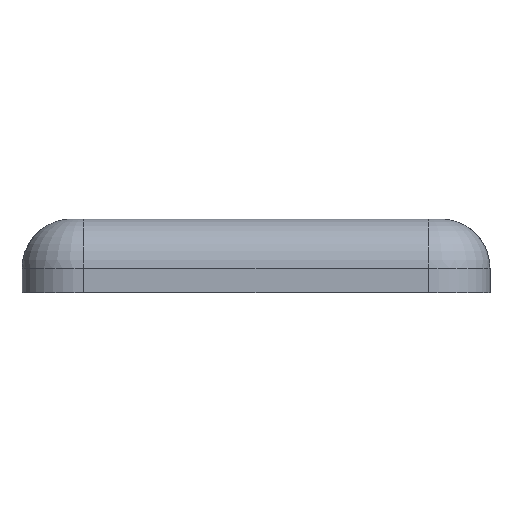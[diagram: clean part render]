
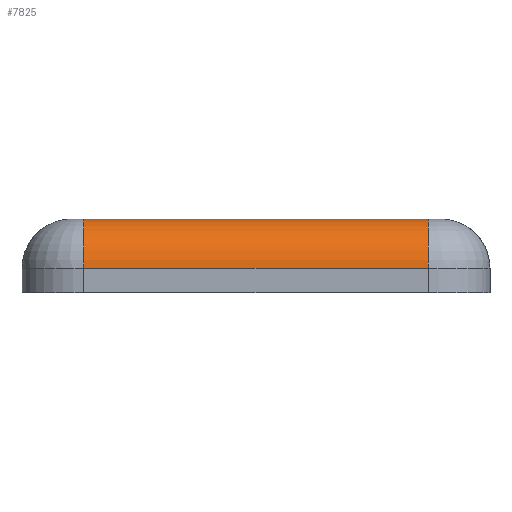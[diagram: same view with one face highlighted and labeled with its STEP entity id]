
A CAD part, front view. The second image highlights one B-rep face of the part: STEP entity #7825.
In plain terms, the highlighted cylindrical face has radius 2 mm (diameter 4 mm), a partial arc.
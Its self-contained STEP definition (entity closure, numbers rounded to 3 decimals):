
#201 = DIRECTION ( 'NONE',  ( -1., 0., 0. ) ) ;
#250 = CARTESIAN_POINT ( 'NONE',  ( -9.5, -22.5, 1. ) ) ;
#443 = DIRECTION ( 'NONE',  ( 1., 0., 0. ) ) ;
#626 = EDGE_CURVE ( 'NONE', #2612, #872, #5392, .T. ) ;
#872 = VERTEX_POINT ( 'NONE', #7945 ) ;
#1429 = DIRECTION ( 'NONE',  ( 0., 0., -1. ) ) ;
#1619 = CARTESIAN_POINT ( 'NONE',  ( 7., -20.5, 1. ) ) ;
#1779 = VECTOR ( 'NONE', #443, 1000. ) ;
#2536 = AXIS2_PLACEMENT_3D ( 'NONE', #5151, #8440, #10110 ) ;
#2612 = VERTEX_POINT ( 'NONE', #5044 ) ;
#3128 = EDGE_CURVE ( 'NONE', #10775, #2612, #9705, .T. ) ;
#3162 = AXIS2_PLACEMENT_3D ( 'NONE', #7507, #10028, #1429 ) ;
#3461 = VERTEX_POINT ( 'NONE', #4665 ) ;
#3955 = DIRECTION ( 'NONE',  ( 0., 0., -1. ) ) ;
#4132 = CIRCLE ( 'NONE', #2536, 2. ) ;
#4665 = CARTESIAN_POINT ( 'NONE',  ( -7., -22.5, 1. ) ) ;
#4780 = ORIENTED_EDGE ( 'NONE', *, *, #10058, .F. ) ;
#4951 = FACE_OUTER_BOUND ( 'NONE', #5925, .T. ) ;
#4970 = DIRECTION ( 'NONE',  ( 1., 0., 0. ) ) ;
#5044 = CARTESIAN_POINT ( 'NONE',  ( 7., -20.5, 3. ) ) ;
#5104 = ORIENTED_EDGE ( 'NONE', *, *, #626, .F. ) ;
#5151 = CARTESIAN_POINT ( 'NONE',  ( -7., -20.5, 1. ) ) ;
#5392 = CIRCLE ( 'NONE', #6285, 2. ) ;
#5411 = ORIENTED_EDGE ( 'NONE', *, *, #3128, .F. ) ;
#5577 = CARTESIAN_POINT ( 'NONE',  ( 0., -20.5, 3. ) ) ;
#5925 = EDGE_LOOP ( 'NONE', ( #6581, #4780, #5104, #5411 ) ) ;
#6285 = AXIS2_PLACEMENT_3D ( 'NONE', #1619, #4970, #3955 ) ;
#6581 = ORIENTED_EDGE ( 'NONE', *, *, #7112, .F. ) ;
#6670 = CYLINDRICAL_SURFACE ( 'NONE', #3162, 2. ) ;
#6893 = VECTOR ( 'NONE', #201, 1000. ) ;
#7112 = EDGE_CURVE ( 'NONE', #3461, #10775, #4132, .T. ) ;
#7213 = LINE ( 'NONE', #250, #6893 ) ;
#7507 = CARTESIAN_POINT ( 'NONE',  ( 0., -20.5, 1. ) ) ;
#7825 = ADVANCED_FACE ( 'NONE', ( #4951 ), #6670, .T. ) ;
#7945 = CARTESIAN_POINT ( 'NONE',  ( 7., -22.5, 1. ) ) ;
#8440 = DIRECTION ( 'NONE',  ( -1., 0., 0. ) ) ;
#9705 = LINE ( 'NONE', #5577, #1779 ) ;
#9963 = CARTESIAN_POINT ( 'NONE',  ( -7., -20.5, 3. ) ) ;
#10028 = DIRECTION ( 'NONE',  ( 1., 0., 0. ) ) ;
#10058 = EDGE_CURVE ( 'NONE', #872, #3461, #7213, .T. ) ;
#10110 = DIRECTION ( 'NONE',  ( 0., 0., 1. ) ) ;
#10775 = VERTEX_POINT ( 'NONE', #9963 ) ;
